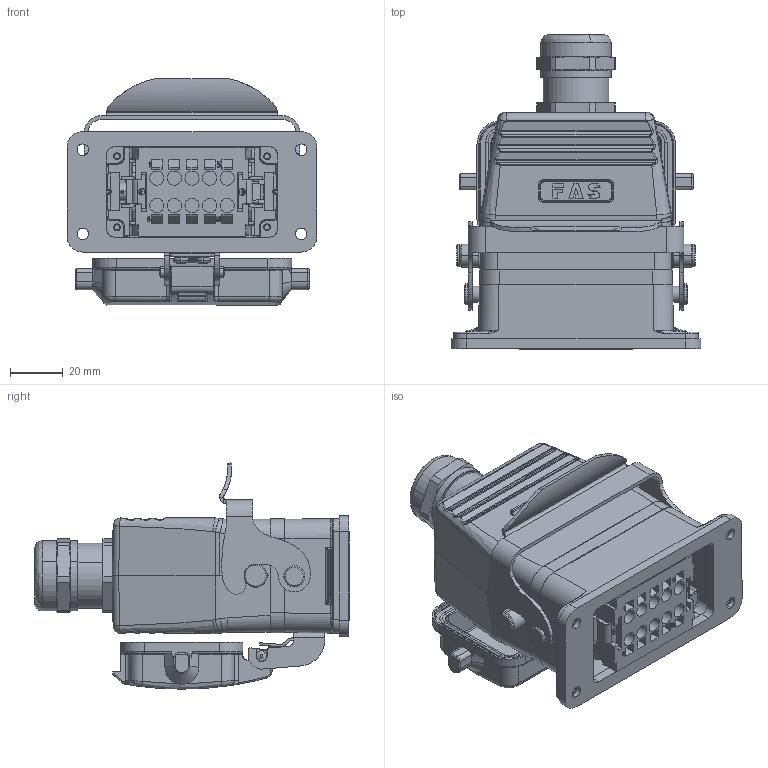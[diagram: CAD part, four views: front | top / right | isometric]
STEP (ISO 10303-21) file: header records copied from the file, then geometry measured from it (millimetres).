
FILE_DESCRIPTION (( 'STEP AP214' ), '1' );
FILE_NAME ('09110106120P HESH、10针、开孔带盖底座、顶出20套件、配塑料接头.STEP', '2024-04-26T08:22:56', ( 'L' ), ( '' ), 'SwSTEP 2.0', 'SolidWorks 2019', '' );
FILE_SCHEMA (( 'AUTOMOTIVE_DESIGN' ));
Length unit declared in the file: millimetre
Products named in the file (9): FAS-20-P.step; H10B-AD-LB.STEP; 1019.STEP; H10B-TG-RO-M20.step; 09110106120P HESH、10针、开孔带盖底座、顶出20套件、配塑料接头; 10bmifengquan-1-solid1.STEP; HESH-010-F.stp; HESH-010-M.stp; ____1.STEP
Assembly tree (8 placements, depth 4):
  09110106120P HESH、10针、开孔带盖底座、顶出20套件、配塑料接头
    HESH-010-F.stp
    HESH-010-M.stp
    FAS-20-P.step
    H10B-AD-LB.STEP
      1019.STEP
        10bmifengquan-1-solid1.STEP
        ____1.STEP
    H10B-TG-RO-M20.step
Bounding box: 95 x 119.65 x 85.95 mm (x, y, z)
Volume: 203454.8 mm3; surface area: 113922.2 mm2
Topology: 6 solids, 11 shells, 3766 faces, 9625 edges, 6030 vertices
Faces by surface type: plane 1610, cylinder 1045, bspline 523, cone 390, torus 154, sphere 44
Entity records: 198250 total; most frequent: CARTESIAN_POINT 100679, ORIENTED_EDGE 19098, DIRECTION 16348, EDGE_CURVE 9549, VERTEX_POINT 6022, AXIS2_PLACEMENT_3D 5598, LINE 5152, VECTOR 5152
